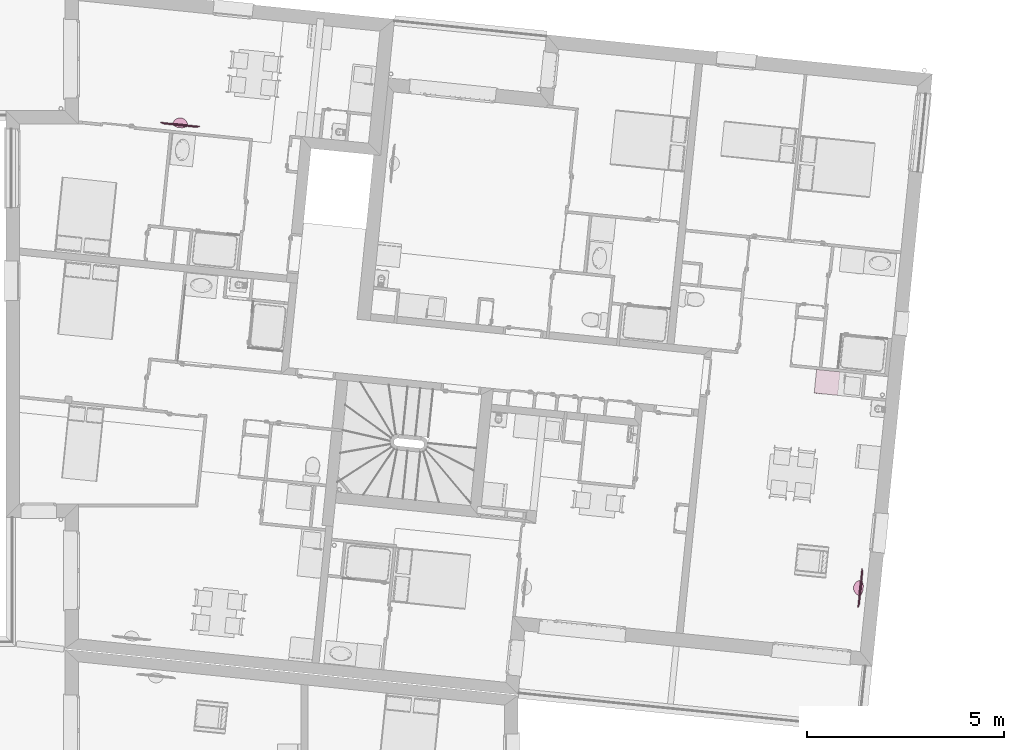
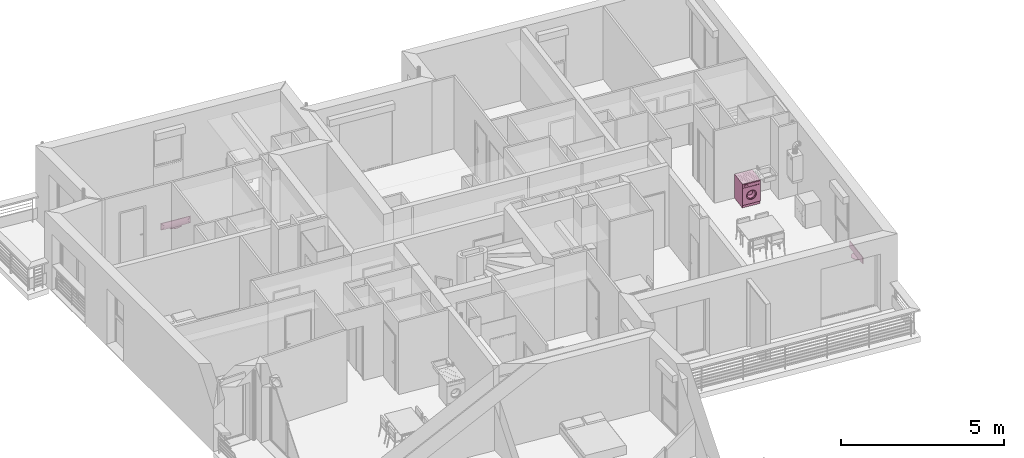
# One storey, part 130 of 164: 3 furnishings.
"""IFC2X3 building model written with IfcOpenShell, lengths in millimetres."""

import ifcopenshell
import ifcopenshell.guid

model = None  # the IFC model being written
_history = None  # IfcOwnerHistory: only IFC2X3 demands one
_inside = {}  # id of a spatial element -> (the spatial element, [elements in it])
_under = {}  # id of a project, library or spatial element -> (it, [spatial elements below it])
_declared = {}  # id of a project -> (the project, [libraries it declares])
_typed = {}  # id of a type object -> (the type object, [elements of that type])
_made_of = {}  # id of a material, layer set ... -> (it, [elements and type objects made of it])


def new_model(schema):
    """Start an empty IFC model of exactly this schema.

    Asked for "IFC4X3", IfcOpenShell would pick the latest addendum, in which some entities
    have other attributes; the version numbers below select the first issue.
    IFC2X3 requires an IfcOwnerHistory on every rooted entity: one is made here for all.
    """
    global model, _history
    if schema == "IFC4X3":
        model = ifcopenshell.file(schema_version=(4, 3, 0, 0))
    else:
        model = ifcopenshell.file(schema=schema)
    _inside.clear()
    _under.clear()
    _declared.clear()
    _typed.clear()
    _made_of.clear()
    _history = None
    if model.schema == "IFC2X3":
        org = make("IfcOrganization", Name="unknown")
        user = make(
            "IfcPersonAndOrganization",
            ThePerson=make("IfcPerson", FamilyName="unknown"),
            TheOrganization=org,
        )
        app = make(
            "IfcApplication",
            ApplicationDeveloper=org,
            Version="unknown",
            ApplicationFullName="unknown",
            ApplicationIdentifier="unknown",
        )
        _history = make(
            "IfcOwnerHistory",
            OwningUser=user,
            OwningApplication=app,
            ChangeAction="ADDED",
            CreationDate=0,
        )
    return model


def make(cls, **values):
    """One entity of the class cls with the attributes given. An attribute that is None is left unset."""
    return model.create_entity(
        cls, **{name: value for name, value in values.items() if value is not None}
    )


def entity(cls, *values):
    """Any entity or typed value of the class cls, its attributes in the order of the schema. None: left unset."""
    e = model.create_entity(cls)
    for i, value in enumerate(values):
        if value is not None:
            e[i] = value
    return e


def rooted(cls, **values):
    """An entity with a GlobalId (a new one), such as an element, a storey or a relation."""
    return make(cls, GlobalId=ifcopenshell.guid.new(), OwnerHistory=_history, **values)


def si_unit(unit_type, name, prefix=None):
    """IfcSIUnit, for example si_unit("LENGTHUNIT", "METRE", prefix="MILLI")."""
    return make("IfcSIUnit", UnitType=unit_type, Prefix=prefix, Name=name)


def converted_unit(unit_type, name, factor, base, dimensions=None, offset=None):
    """IfcConversionBasedUnit, such as the inch: factor (a typed value) times the base unit."""
    return make(
        "IfcConversionBasedUnit"
        if offset is None
        else "IfcConversionBasedUnitWithOffset",
        ConversionOffset=offset,
        Dimensions=None
        if dimensions is None
        else entity("IfcDimensionalExponents", *dimensions),
        UnitType=unit_type,
        Name=name,
        ConversionFactor=make(
            "IfcMeasureWithUnit", ValueComponent=factor, UnitComponent=base
        ),
    )


def derived_unit(unit_type, elements):
    """IfcDerivedUnit: a product of units, each with its exponent."""
    return make(
        "IfcDerivedUnit",
        Elements=[
            make("IfcDerivedUnitElement", Unit=unit, Exponent=power)
            for unit, power in elements
        ],
        UnitType=unit_type,
    )


def money_unit(currency):
    """IfcMonetaryUnit."""
    return make("IfcMonetaryUnit", Currency=currency)


def assignment(units):
    """IfcUnitAssignment: the units of a project."""
    return None if units is None else make("IfcUnitAssignment", Units=units)


def point(xyz):
    """IfcCartesianPoint."""
    return None if xyz is None else make("IfcCartesianPoint", Coordinates=xyz)


def direction(xyz):
    """IfcDirection."""
    return None if xyz is None else make("IfcDirection", DirectionRatios=xyz)


def frame(location, z_axis=None, x_axis=None):
    """IfcAxis2Placement3D, a coordinate frame: its origin and axes. An axis left out is left unset."""
    return make(
        "IfcAxis2Placement3D",
        Location=point(location),
        Axis=direction(z_axis),
        RefDirection=direction(x_axis),
    )


def origin_with_axes():
    """The frame at (0, 0, 0) with the z axis (0, 0, 1) and the x axis (1, 0, 0) written out."""
    return frame((0.0, 0.0, 0.0), z_axis=(0.0, 0.0, 1.0), x_axis=(1.0, 0.0, 0.0))


def place(relative_to, where):
    """IfcLocalPlacement: puts the frame where relative to a parent placement (None: the world)."""
    return make(
        "IfcLocalPlacement", PlacementRelTo=relative_to, RelativePlacement=where
    )


def context(
    kind, dimensions, precision=None, world=None, true_north=None, identifier=None
):
    """IfcGeometricRepresentationContext, for example the 3D "Model" context."""
    return make(
        "IfcGeometricRepresentationContext",
        ContextIdentifier=identifier,
        ContextType=kind,
        CoordinateSpaceDimension=dimensions,
        Precision=precision,
        WorldCoordinateSystem=world,
        TrueNorth=true_north,
    )


def subcontext(parent, identifier, kind, view, scale=None):
    """IfcGeometricRepresentationSubContext, for example "Body" below "Model"."""
    return make(
        "IfcGeometricRepresentationSubContext",
        ContextIdentifier=identifier,
        ContextType=kind,
        ParentContext=parent,
        TargetScale=scale,
        TargetView=view,
    )


def project(units=None, contexts=None):
    """IfcProject with its units and contexts."""
    return rooted(
        "IfcProject",
        Name="project",
        RepresentationContexts=contexts,
        UnitsInContext=assignment(units),
    )


def spatial(cls, under=None, at=None, **own):
    """A site, building, storey or space (cls), placed at a placement, below another one or the project."""
    s = rooted(cls, ObjectPlacement=at, **own)
    if under is not None:
        _under.setdefault(under.id(), (under, []))[1].append(s)
    return s


def faces_of(points, faces, orient=None, outer=None):
    """IfcFace entities. A face is a list of loops; a loop is a list of indices into points, from 0.

    orient and outer hold one flag for each loop. By default every Orientation is true, the
    first loop of a face is its IfcFaceOuterBound and the others are IfcFaceBound.
    """
    made = []
    for i, loops in enumerate(faces):
        bounds = []
        for j, loop in enumerate(loops):
            is_outer = j == 0 if outer is None else outer[i][j]
            bounds.append(
                make(
                    "IfcFaceOuterBound" if is_outer else "IfcFaceBound",
                    Bound=make("IfcPolyLoop", Polygon=[points[k] for k in loop]),
                    Orientation=True if orient is None else orient[i][j],
                )
            )
        made.append(make("IfcFace", Bounds=bounds))
    return made


def open_shell(faces, orient=None, outer=None):
    """The faces of one IfcOpenShell. surface_model builds it on its shared points."""
    return ("IfcOpenShell", faces, orient, outer)


def faceted_brep(points, faces, orient=None, outer=None, voids=None):
    """IfcFacetedBrep: a solid bounded by flat faces; with voids (closed shells), ...WithVoids."""
    shared = [point(p) for p in points]
    hull = make("IfcClosedShell", CfsFaces=faces_of(shared, faces, orient, outer))
    if voids is None:
        return make("IfcFacetedBrep", Outer=hull)
    return make(
        "IfcFacetedBrepWithVoids",
        Outer=hull,
        Voids=[
            make(cls, CfsFaces=faces_of(shared, fs, o, b)) for cls, fs, o, b in voids
        ],
    )


def surface_model(cls, points, shells):
    """IfcFaceBasedSurfaceModel or IfcShellBasedSurfaceModel (cls): surfaces that need not close."""
    shared = [point(p) for p in points]
    made = [make(c, CfsFaces=faces_of(shared, fs, o, b)) for c, fs, o, b in shells]
    if cls == "IfcFaceBasedSurfaceModel":
        return make(cls, FbsmFaces=made)
    return make(cls, SbsmBoundary=made)


def shape(context_of_items, identifier, shape_type, items):
    """IfcShapeRepresentation: the items that make up one representation, for example the "Body"."""
    return make(
        "IfcShapeRepresentation",
        ContextOfItems=context_of_items,
        RepresentationIdentifier=identifier,
        RepresentationType=shape_type,
        Items=items,
    )


def source(mapping_origin, context_of_items, identifier, shape_type, items):
    """IfcRepresentationMap: a shape defined once, which mapped items show again and again."""
    return make(
        "IfcRepresentationMap",
        MappingOrigin=mapping_origin,
        MappedRepresentation=shape(context_of_items, identifier, shape_type, items),
    )


def transform(
    local_origin,
    x_axis=None,
    y_axis=None,
    z_axis=None,
    scale=None,
    scale2=None,
    scale3=None,
    uniform=True,
):
    """IfcCartesianTransformationOperator3D, or its non-uniform kind. x_axis, y_axis, z_axis: its Axis1, 2, 3."""
    if uniform:
        return make(
            "IfcCartesianTransformationOperator3D",
            Axis1=direction(x_axis),
            Axis2=direction(y_axis),
            LocalOrigin=point(local_origin),
            Scale=scale,
            Axis3=direction(z_axis),
        )
    return make(
        "IfcCartesianTransformationOperator3DnonUniform",
        Axis1=direction(x_axis),
        Axis2=direction(y_axis),
        LocalOrigin=point(local_origin),
        Scale=scale,
        Axis3=direction(z_axis),
        Scale2=scale2,
        Scale3=scale3,
    )


def mapped(mapping_source, mapping_target):
    """IfcMappedItem: shows the shape of a source again, moved by a transform."""
    return make(
        "IfcMappedItem", MappingSource=mapping_source, MappingTarget=mapping_target
    )


def made_of(thing, what):
    """Note that an element or type object is made of a material, layer set ...; save() writes the relation."""
    if what is not None:
        _made_of.setdefault(what.id(), (what, []))[1].append(thing)
    return thing


def type_object(cls, material=None, **own):
    """A type object (cls), such as IfcWallType, which elements share."""
    return made_of(rooted(cls, **own), material)


def element(
    cls,
    number,
    at=None,
    inside=None,
    cuts=None,
    type_object=None,
    material=None,
    context=None,
    identifier="Body",
    shape_type=None,
    held_by="IfcProductDefinitionShape",
    body=None,
    shapes=None,
    **own,
):
    """One element of the class cls, such as IfcWall. Its Tag is "e" and its number.

    at: its placement. inside: the storey or other place that contains it. cuts: it is an
    opening in that element (IfcRelVoidsElement). A single representation is given by context,
    identifier, shape_type and body (its items); several are given by shapes. held_by: the class
    of the entity that holds the representations. save() writes the other relations.
    """
    e = rooted(cls, Tag="e%d" % number, ObjectPlacement=at, **own)
    if body is not None:
        shapes = [shape(context, identifier, shape_type, body)]
    if shapes is not None:
        e.Representation = make(held_by, Representations=shapes)
    if inside is not None:
        _inside.setdefault(inside.id(), (inside, []))[1].append(e)
    if cuts is not None:
        rooted(
            "IfcRelVoidsElement", RelatingBuildingElement=cuts, RelatedOpeningElement=e
        )
    if type_object is not None:
        _typed.setdefault(type_object.id(), (type_object, []))[1].append(e)
    return made_of(e, material)


def aggregate(whole, parts):
    """IfcRelAggregates: a whole, such as a stair, and the parts it consists of."""
    return rooted("IfcRelAggregates", RelatingObject=whole, RelatedObjects=parts)


def save(model, path):
    """Write the relations noted so far, then the file.

    IfcRelAggregates (storeys below a building ...), IfcRelContainedInSpatialStructure (elements
    in a storey), IfcRelDefinesByType, IfcRelAssociatesMaterial and IfcRelDeclares: one each for
    every whole, place, type object, material and project.
    """
    for whole, parts in _under.values():
        aggregate(whole, parts)
    for where, things in _inside.values():
        rooted(
            "IfcRelContainedInSpatialStructure",
            RelatedElements=things,
            RelatingStructure=where,
        )
    for kind, things in _typed.values():
        rooted("IfcRelDefinesByType", RelatedObjects=things, RelatingType=kind)
    for what, things in _made_of.values():
        rooted("IfcRelAssociatesMaterial", RelatedObjects=things, RelatingMaterial=what)
    for by, libraries in _declared.values():
        rooted("IfcRelDeclares", RelatingContext=by, RelatedDefinitions=libraries)
    model.write(path)


model = new_model("IFC2X3")

# Units and contexts
model_context = context("Model", 3, precision=0.01, world=origin_with_axes(), true_north=direction((0.0, 1.0)))
body_context = subcontext(model_context, "Body", "Model", "MODEL_VIEW")
ifc_project = project(units=[si_unit("LENGTHUNIT", "METRE", prefix="MILLI"), si_unit("AREAUNIT", "SQUARE_METRE"), si_unit("VOLUMEUNIT", "CUBIC_METRE"), converted_unit("PLANEANGLEUNIT", "DEGREE", entity("IfcPlaneAngleMeasure", 0.0174532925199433), si_unit("PLANEANGLEUNIT", "RADIAN"), dimensions=[0, 0, 0, 0, 0, 0, 0]), money_unit("USD"), converted_unit("TIMEUNIT", "Year", entity("IfcTimeMeasure", 31557600.0), si_unit("TIMEUNIT", "SECOND"), dimensions=[0, 0, 1, 0, 0, 0, 0]), si_unit("MASSUNIT", "GRAM", prefix="KILO"), si_unit("THERMODYNAMICTEMPERATUREUNIT", "DEGREE_CELSIUS"), si_unit("LUMINOUSINTENSITYUNIT", "LUMEN"), si_unit("ENERGYUNIT", "JOULE", prefix="MEGA"), derived_unit("THERMALCONDUCTANCEUNIT", [(si_unit("POWERUNIT", "WATT"), 1), (si_unit("LENGTHUNIT", "METRE"), -1), (si_unit("THERMODYNAMICTEMPERATUREUNIT", "KELVIN"), -1)]), derived_unit("SPECIFICHEATCAPACITYUNIT", [(si_unit("ENERGYUNIT", "JOULE"), 1), (si_unit("MASSUNIT", "GRAM", prefix="KILO"), -1), (si_unit("THERMODYNAMICTEMPERATUREUNIT", "KELVIN"), -1)]), derived_unit("MASSDENSITYUNIT", [(si_unit("MASSUNIT", "GRAM", prefix="KILO"), 1), (si_unit("VOLUMEUNIT", "CUBIC_METRE"), -1)])], contexts=[model_context])

# Site, building, storey
site_placement = place(None, origin_with_axes())
site = spatial("IfcSite", under=ifc_project, at=site_placement, Name="Site", CompositionType="ELEMENT")
building_placement = place(site_placement, origin_with_axes())
building = spatial("IfcBuilding", under=site, at=building_placement, Name="Bâtiment", CompositionType="ELEMENT")
storey_placement = place(building_placement, frame((0.0, 0.0, 5750.0), z_axis=(0.0, 0.0, 1.0), x_axis=(1.0, 0.0, 0.0)))
storey = spatial("IfcBuildingStorey", under=building, at=storey_placement, Name="Etage1", CompositionType="ELEMENT", Elevation=5750.0)

# Furnishings
furnishing_element_type_1 = type_object("IfcFurnishingElementType", Name="Ecran TV plasma")
shared_shape_1 = source(origin_with_axes(), body_context, "Body", "Brep", [
    faceted_brep([(-300.0, 45.45454545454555, 0.0), (-300.0, 45.45454545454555, 12.72727272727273), (-311.9952377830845, -22.76722074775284, 12.72727272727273), (-311.9952377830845, -22.76722074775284, 0.0), (-300.362869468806, 45.66379498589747, 0.0), (-300.362869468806, 45.66379498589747, 12.72727272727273), (-430.8157560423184, 93.01588086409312, 12.72727272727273), (-569.5967719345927, 92.94321528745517, 12.72727272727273), (-700.0000000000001, 45.45454545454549, 12.72727272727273), (-699.9923846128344, 43.70923835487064, 12.72727272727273), (-687.402263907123, -24.40525330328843, 12.72727272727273), (-652.3327960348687, -84.13989598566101, 12.72727272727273), (-598.9906470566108, -128.3293772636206, 12.72727272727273), (-533.7743345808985, -151.6730637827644, 12.72727272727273), (-464.5067103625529, -151.3708248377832, 12.72727272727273), (-399.4965906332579, -127.4589147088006, 12.72727272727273), (-346.5420938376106, -82.80562387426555, 12.72727272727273), (-346.5420938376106, -82.80562387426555, 0.0), (-399.4965906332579, -127.4589147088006, 0.0), (-464.5067103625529, -151.3708248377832, 0.0), (-533.7743345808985, -151.6730637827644, 0.0), (-598.9906470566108, -128.3293772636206, 0.0), (-652.3327960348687, -84.13989598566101, 0.0), (-687.402263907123, -24.40525330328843, 0.0), (-699.9923846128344, 43.70923835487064, 0.0), (-700.0000000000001, 45.45454545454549, 0.0), (-569.5967719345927, 92.94321528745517, 0.0), (-430.8157560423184, 93.01588086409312, 0.0)], [[[0, 1, 2, 3]], [[4, 5, 1, 0]], [[1, 5, 6, 7, 8, 9, 10, 11, 12, 13, 14, 15, 16, 2]], [[3, 2, 16, 17]], [[0, 3, 17, 18, 19, 20, 21, 22, 23, 24, 25, 26, 27, 4]], [[27, 6, 5, 4]], [[26, 7, 6, 27]], [[25, 8, 7, 26]], [[24, 9, 8, 25]], [[23, 10, 9, 24]], [[22, 11, 10, 23]], [[21, 12, 11, 22]], [[20, 13, 12, 21]], [[19, 14, 13, 20]], [[18, 15, 14, 19]], [[17, 16, 15, 18]]]),
    faceted_brep([(-666.6666666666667, 2.500000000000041, 12.72727272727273), (-666.6666666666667, 2.500000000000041, 25.45454545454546), (-666.6666666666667, 22.50000000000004, 25.45454545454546), (-666.6666666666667, 22.50000000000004, 12.72727272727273), (-333.3333333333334, 2.500000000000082, 12.72727272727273), (-333.3333333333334, 2.500000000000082, 25.45454545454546), (-333.3333333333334, 22.50000000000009, 25.45454545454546), (-333.3333333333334, 22.50000000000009, 12.72727272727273)], [[[0, 1, 2, 3]], [[4, 5, 1, 0]], [[1, 5, 6, 2]], [[3, 2, 6, 7]], [[0, 3, 7, 4]], [[7, 6, 5, 4]]]),
    faceted_brep([(-62.5, -0.2539999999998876, 65.45454545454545), (-62.5, 0.0, 65.45454545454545), (-62.5, 0.0, 254.5454545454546), (-62.5, -0.2539999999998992, 254.5454545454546), (-937.5, -0.2539999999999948, 65.45454545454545), (-937.5, 0.0, 65.45454545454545), (-937.5, 0.0, 254.5454545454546), (-937.5, -0.2540000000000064, 254.5454545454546)], [[[0, 1, 2, 3]], [[4, 5, 1, 0]], [[1, 5, 6, 2]], [[3, 2, 6, 7]], [[0, 3, 7, 4]], [[7, 6, 5, 4]]]),
    faceted_brep([(-937.5, 0.0, 25.45454545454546), (-62.5, 0.0, 25.45454545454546), (0.0, 0.0, 31.81818181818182), (0.0, 0.0, 280.0), (-1000.0, 0.0, 280.0), (-1000.0, 0.0, 31.81818181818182), (-937.5000003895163, 25.00000000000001, 25.4545450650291), (-62.50000038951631, 25.00000000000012, 25.4545450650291), (-3.895163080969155e-07, 25.00000000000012, 31.81818187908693), (-3.895163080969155e-07, 25.00000000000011, 279.9999999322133), (-1000.000000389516, 24.99999999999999, 279.9999999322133), (-1000.000000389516, 25.0, 31.81818187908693), (-934.156616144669, 42.64268163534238, 91.29792930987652), (-906.6987288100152, 50.00000037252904, 118.7558166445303), (-93.30127196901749, 50.00000037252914, 118.7558166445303), (-65.84338463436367, 42.64268163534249, 91.29792930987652), (-93.30127196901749, 50.00000037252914, 186.6987283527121), (-906.6987288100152, 50.00000037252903, 186.6987283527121)], [[[0, 1, 2, 3, 4, 5]], [[0, 6, 7, 1]], [[1, 7, 8, 2]], [[2, 8, 9, 3]], [[3, 9, 10, 4]], [[4, 10, 11, 5]], [[5, 11, 6, 0]], [[6, 12, 13, 14, 15, 7]], [[7, 15, 8]], [[8, 15, 14, 16, 9]], [[9, 16, 17, 10]], [[10, 17, 13, 12, 11]], [[11, 12, 6]], [[17, 16, 14, 13]]]),
    faceted_brep([(-500.0, -0.7937499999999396, 39.45454545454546), (-500.0, 0.0, 39.45454545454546), (-490.0, 0.0, 46.45454545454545), (-490.0, -0.7937499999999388, 46.45454545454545), (-510.0, -0.7937499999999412, 46.45454545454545), (-510.0, 0.0, 46.45454545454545), (-600.0, 0.0, 52.18181818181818), (-400.0, 0.0, 52.18181818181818), (-400.0, -0.7937499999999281, 52.18181818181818), (-600.0, -0.7937499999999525, 52.18181818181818)], [[[0, 1, 2, 3]], [[4, 5, 1, 0]], [[1, 5, 6, 7, 2]], [[3, 2, 7, 8]], [[0, 3, 8, 9, 4]], [[9, 6, 5, 4]], [[8, 7, 6, 9]]]),
    faceted_brep([(-866.6666666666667, 10.0, 280.0), (-866.6666666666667, 10.0, 281.5875), (-933.3333333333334, 9.999999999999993, 281.5875), (-933.3333333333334, 9.999999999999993, 280.0), (-866.6666666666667, 16.25, 280.0), (-866.6666666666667, 16.25, 281.5875), (-933.3333333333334, 16.24999999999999, 281.5875), (-933.3333333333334, 16.24999999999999, 280.0)], [[[0, 1, 2, 3]], [[0, 4, 5, 1]], [[1, 5, 6, 2]], [[2, 6, 7, 3]], [[3, 7, 4, 0]], [[7, 6, 5, 4]]]),
    faceted_brep([(-795.2380952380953, 10.00000000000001, 280.0), (-795.2380952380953, 10.00000000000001, 281.5875), (-861.9047619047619, 10.0, 281.5875), (-861.9047619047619, 10.0, 280.0), (-795.2380952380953, 16.25000000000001, 280.0), (-795.2380952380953, 16.25000000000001, 281.5875), (-861.9047619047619, 16.25, 281.5875), (-861.9047619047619, 16.25, 280.0)], [[[0, 1, 2, 3]], [[0, 4, 5, 1]], [[1, 5, 6, 2]], [[2, 6, 7, 3]], [[3, 7, 4, 0]], [[7, 6, 5, 4]]]),
    faceted_brep([(-757.1428571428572, 10.00000000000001, 280.0), (-757.1428571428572, 10.00000000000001, 281.5875), (-790.4761904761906, 10.00000000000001, 281.5875), (-790.4761904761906, 10.00000000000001, 280.0), (-757.1428571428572, 16.25000000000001, 280.0), (-757.1428571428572, 16.25000000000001, 281.5875), (-790.4761904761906, 16.25000000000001, 281.5875), (-790.4761904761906, 16.25000000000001, 280.0)], [[[0, 1, 2, 3]], [[0, 4, 5, 1]], [[1, 5, 6, 2]], [[2, 6, 7, 3]], [[3, 7, 4, 0]], [[7, 6, 5, 4]]]),
])
for number, where, z_axis, x_axis, name in (
    (1, (2220568.504799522, -607456.9934774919, 800.0000000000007), (0.0, 0.0, 1.0), (-0.9948188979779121, 0.1016629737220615, 0.0), "Obj.-034"),
    (2, (2238280.401627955, -619796.48229524, 800.0000000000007), (0.0, 0.0, 1.0), (-0.1016983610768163, -0.9948152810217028, 0.0), "Obj.-034"),
):
    element("IfcFurnishingElement", number, at=place(storey_placement, frame(where, z_axis=z_axis, x_axis=x_axis)), inside=storey, type_object=furnishing_element_type_1, Name=name, context=body_context, shape_type="MappedRepresentation", body=[
        mapped(shared_shape_1, transform((0.0, 0.0, 0.0))),
    ])
furnishing_element_type_2 = type_object("IfcFurnishingElementType", Name="Machine à laver")
shared_shape_2 = source(origin_with_axes(), body_context, "Body", "SurfaceModel", [
    faceted_brep([(0.0, 20.0, 100.0), (600.0, 20.0, 100.0), (600.0, 0.0, 100.0), (0.0, 0.0, 100.0), (0.0, 20.00000000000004, 740.0), (600.0, 20.00000000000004, 740.0), (471.4285714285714, 20.00000000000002, 420.0000000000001), (465.5872845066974, 20.00000000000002, 464.3689791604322), (448.4614977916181, 20.00000000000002, 505.7142857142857), (421.2183053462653, 20.00000000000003, 541.2183053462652), (385.7142857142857, 20.00000000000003, 568.4614977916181), (344.3689791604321, 20.00000000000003, 585.5872845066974), (300.0000000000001, 20.00000000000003, 591.4285714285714), (255.6310208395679, 20.00000000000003, 585.5872845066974), (214.2857142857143, 20.00000000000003, 568.4614977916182), (178.7816946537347, 20.00000000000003, 541.2183053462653), (151.5385022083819, 20.00000000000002, 505.7142857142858), (134.4127154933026, 20.00000000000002, 464.3689791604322), (128.5714285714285, 20.00000000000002, 420.0000000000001), (134.4127154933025, 20.00000000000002, 375.6310208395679), (151.5385022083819, 20.00000000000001, 334.2857142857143), (178.7816946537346, 20.00000000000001, 298.7816946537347), (214.2857142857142, 20.00000000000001, 271.5385022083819), (255.6310208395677, 20.00000000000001, 254.4127154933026), (299.9999999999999, 20.00000000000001, 248.5714285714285), (344.368979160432, 20.00000000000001, 254.4127154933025), (385.7142857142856, 20.00000000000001, 271.5385022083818), (421.2183053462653, 20.00000000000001, 298.7816946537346), (448.4614977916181, 20.00000000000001, 334.2857142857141), (465.5872845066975, 20.00000000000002, 375.6310208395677), (600.0, 0.0, 740.0), (0.0, 0.0, 740.0), (471.4285714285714, 0.0, 420.0000000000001), (465.5872845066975, 0.0, 375.6310208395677), (448.4614977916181, 0.0, 334.2857142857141), (421.2183053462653, 0.0, 298.7816946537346), (385.7142857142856, 0.0, 271.5385022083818), (344.368979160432, 0.0, 254.4127154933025), (299.9999999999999, 0.0, 248.5714285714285), (255.6310208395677, 0.0, 254.4127154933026), (214.2857142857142, 0.0, 271.5385022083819), (178.7816946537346, 0.0, 298.7816946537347), (151.5385022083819, 0.0, 334.2857142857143), (134.4127154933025, 0.0, 375.6310208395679), (128.5714285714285, 0.0, 420.0000000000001), (134.4127154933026, 0.0, 464.3689791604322), (151.5385022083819, 0.0, 505.7142857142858), (178.7816946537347, 0.0, 541.2183053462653), (214.2857142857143, 0.0, 568.4614977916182), (255.6310208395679, 0.0, 585.5872845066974), (300.0000000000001, 0.0, 591.4285714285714), (344.3689791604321, 0.0, 585.5872845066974), (385.7142857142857, 0.0, 568.4614977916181), (421.2183053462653, 0.0, 541.2183053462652), (448.4614977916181, 0.0, 505.7142857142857), (465.5872845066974, 0.0, 464.3689791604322)], [[[0, 1, 2, 3]], [[0, 4, 5, 1], [6, 7, 8, 9, 10, 11, 12, 13, 14, 15, 16, 17, 18, 19, 20, 21, 22, 23, 24, 25, 26, 27, 28, 29]], [[1, 5, 30, 2]], [[3, 2, 30, 31], [32, 33, 34, 35, 36, 37, 38, 39, 40, 41, 42, 43, 44, 45, 46, 47, 48, 49, 50, 51, 52, 53, 54, 55]], [[4, 0, 3, 31]], [[5, 4, 31, 30]], [[7, 6, 32, 55]], [[8, 7, 55, 54]], [[9, 8, 54, 53]], [[10, 9, 53, 52]], [[11, 10, 52, 51]], [[12, 11, 51, 50]], [[13, 12, 50, 49]], [[14, 13, 49, 48]], [[15, 14, 48, 47]], [[16, 15, 47, 46]], [[17, 16, 46, 45]], [[18, 17, 45, 44]], [[19, 18, 44, 43]], [[20, 19, 43, 42]], [[21, 20, 42, 41]], [[22, 21, 41, 40]], [[23, 22, 40, 39]], [[24, 23, 39, 38]], [[25, 24, 38, 37]], [[26, 25, 37, 36]], [[27, 26, 36, 35]], [[28, 27, 35, 34]], [[29, 28, 34, 33]], [[6, 29, 33, 32]]]),
    faceted_brep([(471.4285714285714, 40.00000000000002, 420.0000000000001), (465.5872845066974, 40.00000000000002, 464.3689791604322), (465.5872845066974, 20.00000000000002, 464.3689791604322), (471.4285714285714, 20.00000000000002, 420.0000000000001), (465.5872845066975, 40.00000000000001, 375.6310208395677), (448.4614977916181, 40.00000000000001, 334.2857142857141), (421.2183053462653, 40.00000000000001, 298.7816946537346), (385.7142857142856, 40.00000000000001, 271.5385022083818), (344.368979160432, 40.00000000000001, 254.4127154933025), (299.9999999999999, 40.00000000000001, 248.5714285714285), (255.6310208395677, 40.00000000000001, 254.4127154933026), (214.2857142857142, 40.00000000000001, 271.5385022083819), (178.7816946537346, 40.00000000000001, 298.7816946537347), (151.5385022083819, 40.00000000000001, 334.2857142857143), (134.4127154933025, 40.00000000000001, 375.6310208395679), (128.5714285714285, 40.00000000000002, 420.0000000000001), (134.4127154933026, 40.00000000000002, 464.3689791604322), (151.5385022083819, 40.00000000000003, 505.7142857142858), (178.7816946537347, 40.00000000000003, 541.2183053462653), (214.2857142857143, 40.00000000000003, 568.4614977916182), (255.6310208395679, 40.00000000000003, 585.5872845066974), (300.0000000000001, 40.00000000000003, 591.4285714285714), (344.3689791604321, 40.00000000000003, 585.5872845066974), (385.7142857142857, 40.00000000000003, 568.4614977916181), (421.2183053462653, 40.00000000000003, 541.2183053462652), (448.4614977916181, 40.00000000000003, 505.7142857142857), (437.1428571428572, 40.00000000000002, 420.0000000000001), (432.469827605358, 40.00000000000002, 455.4951833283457), (418.7691982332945, 40.00000000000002, 488.5714285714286), (396.9746442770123, 40.00000000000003, 516.9746442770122), (368.5714285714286, 40.00000000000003, 538.7691982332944), (335.4951833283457, 40.00000000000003, 552.469827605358), (300.0000000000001, 40.00000000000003, 557.1428571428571), (264.5048166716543, 40.00000000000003, 552.469827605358), (231.4285714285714, 40.00000000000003, 538.7691982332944), (203.0253557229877, 40.00000000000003, 516.9746442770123), (181.2308017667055, 40.00000000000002, 488.5714285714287), (167.530172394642, 40.00000000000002, 455.4951833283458), (162.8571428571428, 40.00000000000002, 420.0000000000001), (167.530172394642, 40.00000000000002, 384.5048166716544), (181.2308017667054, 40.00000000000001, 351.4285714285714), (203.0253557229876, 40.00000000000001, 323.0253557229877), (231.4285714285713, 40.00000000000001, 301.2308017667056), (264.5048166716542, 40.00000000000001, 287.530172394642), (299.9999999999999, 40.00000000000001, 282.8571428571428), (335.4951833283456, 40.00000000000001, 287.530172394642), (368.5714285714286, 40.00000000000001, 301.2308017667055), (396.9746442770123, 40.00000000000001, 323.0253557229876), (418.7691982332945, 40.00000000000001, 351.4285714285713), (432.469827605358, 40.00000000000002, 384.5048166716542), (448.4614977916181, 20.00000000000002, 505.7142857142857), (421.2183053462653, 20.00000000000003, 541.2183053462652), (385.7142857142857, 20.00000000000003, 568.4614977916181), (344.3689791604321, 20.00000000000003, 585.5872845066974), (300.0000000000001, 20.00000000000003, 591.4285714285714), (255.6310208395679, 20.00000000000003, 585.5872845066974), (214.2857142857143, 20.00000000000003, 568.4614977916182), (178.7816946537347, 20.00000000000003, 541.2183053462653), (151.5385022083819, 20.00000000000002, 505.7142857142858), (134.4127154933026, 20.00000000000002, 464.3689791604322), (128.5714285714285, 20.00000000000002, 420.0000000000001), (134.4127154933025, 20.00000000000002, 375.6310208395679), (151.5385022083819, 20.00000000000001, 334.2857142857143), (178.7816946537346, 20.00000000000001, 298.7816946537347), (214.2857142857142, 20.00000000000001, 271.5385022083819), (255.6310208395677, 20.00000000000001, 254.4127154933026), (299.9999999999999, 20.00000000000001, 248.5714285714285), (344.368979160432, 20.00000000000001, 254.4127154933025), (385.7142857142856, 20.00000000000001, 271.5385022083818), (421.2183053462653, 20.00000000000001, 298.7816946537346), (448.4614977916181, 20.00000000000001, 334.2857142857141), (465.5872845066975, 20.00000000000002, 375.6310208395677), (437.1428571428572, 20.00000000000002, 420.0000000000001), (432.469827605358, 20.00000000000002, 384.5048166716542), (418.7691982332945, 20.00000000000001, 351.4285714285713), (396.9746442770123, 20.00000000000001, 323.0253557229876), (368.5714285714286, 20.00000000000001, 301.2308017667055), (335.4951833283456, 20.00000000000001, 287.530172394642), (299.9999999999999, 20.00000000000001, 282.8571428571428), (264.5048166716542, 20.00000000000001, 287.530172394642), (231.4285714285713, 20.00000000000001, 301.2308017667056), (203.0253557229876, 20.00000000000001, 323.0253557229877), (181.2308017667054, 20.00000000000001, 351.4285714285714), (167.530172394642, 20.00000000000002, 384.5048166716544), (162.8571428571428, 20.00000000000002, 420.0000000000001), (167.530172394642, 20.00000000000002, 455.4951833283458), (181.2308017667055, 20.00000000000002, 488.5714285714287), (203.0253557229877, 20.00000000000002, 516.9746442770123), (231.4285714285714, 20.00000000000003, 538.7691982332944), (264.5048166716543, 20.00000000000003, 552.469827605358), (300.0000000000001, 20.00000000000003, 557.1428571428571), (335.4951833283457, 20.00000000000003, 552.469827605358), (368.5714285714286, 20.00000000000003, 538.7691982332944), (396.9746442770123, 20.00000000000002, 516.9746442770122), (418.7691982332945, 20.00000000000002, 488.5714285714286), (432.469827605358, 20.00000000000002, 455.4951833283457)], [[[0, 1, 2, 3]], [[0, 4, 5, 6, 7, 8, 9, 10, 11, 12, 13, 14, 15, 16, 17, 18, 19, 20, 21, 22, 23, 24, 25, 1], [26, 27, 28, 29, 30, 31, 32, 33, 34, 35, 36, 37, 38, 39, 40, 41, 42, 43, 44, 45, 46, 47, 48, 49]], [[1, 25, 50, 2]], [[3, 2, 50, 51, 52, 53, 54, 55, 56, 57, 58, 59, 60, 61, 62, 63, 64, 65, 66, 67, 68, 69, 70, 71], [72, 73, 74, 75, 76, 77, 78, 79, 80, 81, 82, 83, 84, 85, 86, 87, 88, 89, 90, 91, 92, 93, 94, 95]], [[4, 0, 3, 71]], [[5, 4, 71, 70]], [[6, 5, 70, 69]], [[7, 6, 69, 68]], [[8, 7, 68, 67]], [[9, 8, 67, 66]], [[10, 9, 66, 65]], [[11, 10, 65, 64]], [[12, 11, 64, 63]], [[13, 12, 63, 62]], [[14, 13, 62, 61]], [[15, 14, 61, 60]], [[16, 15, 60, 59]], [[17, 16, 59, 58]], [[18, 17, 58, 57]], [[19, 18, 57, 56]], [[20, 19, 56, 55]], [[21, 20, 55, 54]], [[22, 21, 54, 53]], [[23, 22, 53, 52]], [[24, 23, 52, 51]], [[25, 24, 51, 50]], [[27, 26, 72, 95]], [[28, 27, 95, 94]], [[29, 28, 94, 93]], [[30, 29, 93, 92]], [[31, 30, 92, 91]], [[32, 31, 91, 90]], [[33, 32, 90, 89]], [[34, 33, 89, 88]], [[35, 34, 88, 87]], [[36, 35, 87, 86]], [[37, 36, 86, 85]], [[38, 37, 85, 84]], [[39, 38, 84, 83]], [[40, 39, 83, 82]], [[41, 40, 82, 81]], [[42, 41, 81, 80]], [[43, 42, 80, 79]], [[44, 43, 79, 78]], [[45, 44, 78, 77]], [[46, 45, 77, 76]], [[47, 46, 76, 75]], [[48, 47, 75, 74]], [[49, 48, 74, 73]], [[26, 49, 73, 72]]]),
    surface_model("IfcShellBasedSurfaceModel", [(264.5048166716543, 39.99999999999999, 552.469827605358), (300.0, 39.99999999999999, 557.1428571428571), (300.0, 140.0, 522.8571428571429), (273.3786125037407, 140.0, 519.3523707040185), (335.4951833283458, 39.99999999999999, 552.469827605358), (326.6213874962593, 140.0, 519.3523707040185), (351.4285714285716, 140.0, 509.0768986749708), (372.7309832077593, 140.0, 492.7309832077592), (389.0768986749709, 140.0, 471.4285714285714), (399.3523707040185, 140.0, 446.6213874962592), (402.8571428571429, 140.0, 420.0), (399.3523707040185, 140.0, 393.3786125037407), (389.0768986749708, 140.0, 368.5714285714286), (372.7309832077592, 140.0, 347.2690167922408), (351.4285714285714, 140.0, 330.9231013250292), (326.6213874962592, 140.0, 320.6476292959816), (299.9999999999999, 140.0, 317.1428571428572), (273.3786125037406, 140.0, 320.6476292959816), (248.5714285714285, 140.0, 330.9231013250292), (227.2690167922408, 140.0, 347.2690167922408), (210.9231013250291, 140.0, 368.5714285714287), (200.6476292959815, 140.0, 393.3786125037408), (197.1428571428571, 140.0, 420.0000000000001), (200.6476292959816, 140.0, 446.6213874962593), (210.9231013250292, 140.0, 471.4285714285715), (227.2690167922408, 140.0, 492.7309832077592), (248.5714285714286, 140.0, 509.0768986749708), (231.4285714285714, 39.99999999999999, 538.7691982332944), (368.5714285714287, 39.99999999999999, 538.7691982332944), (396.9746442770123, 39.99999999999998, 516.9746442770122), (418.7691982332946, 39.99999999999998, 488.5714285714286), (432.469827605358, 39.99999999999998, 455.4951833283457), (437.1428571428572, 39.99999999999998, 419.9999999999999), (432.469827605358, 39.99999999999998, 384.5048166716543), (418.7691982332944, 39.99999999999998, 351.4285714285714), (396.9746442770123, 39.99999999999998, 323.0253557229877), (368.5714285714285, 39.99999999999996, 301.2308017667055), (335.4951833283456, 39.99999999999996, 287.5301723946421), (299.9999999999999, 39.99999999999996, 282.8571428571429), (264.5048166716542, 39.99999999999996, 287.5301723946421), (231.4285714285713, 39.99999999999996, 301.2308017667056), (203.0253557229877, 39.99999999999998, 323.0253557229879), (181.2308017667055, 39.99999999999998, 351.4285714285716), (167.530172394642, 39.99999999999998, 384.5048166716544), (162.8571428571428, 39.99999999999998, 420.0000000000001), (167.5301723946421, 39.99999999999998, 455.4951833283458), (181.2308017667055, 39.99999999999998, 488.5714285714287), (203.0253557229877, 39.99999999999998, 516.9746442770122)], [open_shell([[[0, 1, 2, 3]], [[1, 4, 5, 2]], [[2, 5, 6, 7, 8, 9, 10, 11, 12, 13, 14, 15, 16, 17, 18, 19, 20, 21, 22, 23, 24, 25, 26, 3]], [[27, 0, 3, 26]], [[4, 28, 6, 5]], [[28, 29, 7, 6]], [[29, 30, 8, 7]], [[30, 31, 9, 8]], [[31, 32, 10, 9]], [[32, 33, 11, 10]], [[33, 34, 12, 11]], [[34, 35, 13, 12]], [[35, 36, 14, 13]], [[36, 37, 15, 14]], [[37, 38, 16, 15]], [[38, 39, 17, 16]], [[39, 40, 18, 17]], [[40, 41, 19, 18]], [[41, 42, 20, 19]], [[42, 43, 21, 20]], [[43, 44, 22, 21]], [[44, 45, 23, 22]], [[45, 46, 24, 23]], [[46, 47, 25, 24]], [[47, 27, 26, 25]]])]),
    surface_model("IfcShellBasedSurfaceModel", [(0.0, 20.0, 100.0), (0.0, 20.00000000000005, 870.0), (0.0, 600.0, 870.0), (0.0, 600.0, 99.99999999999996)], [open_shell([[[0, 1, 2, 3]]])]),
    surface_model("IfcShellBasedSurfaceModel", [(600.0, 19.99999999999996, 100.0), (600.0, 20.00000000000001, 870.0), (600.0, 599.9999999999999, 870.0), (600.0, 599.9999999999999, 99.99999999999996)], [open_shell([[[0, 1, 2, 3]]])]),
    surface_model("IfcShellBasedSurfaceModel", [(0.0, 600.0, 100.0), (0.0, 600.0, 870.0), (600.0, 600.0, 870.0), (600.0, 600.0, 100.0)], [open_shell([[[0, 1, 2, 3]]])]),
    faceted_brep([(0.0, 20.0, 0.0), (600.0, 20.0, 0.0), (600.0, 20.0, 100.0), (0.0, 20.0, 100.0), (0.0, 600.0, 0.0), (600.0, 600.0, 0.0), (600.0, 600.0, 100.0), (0.0, 600.0, 100.0)], [[[0, 1, 2, 3]], [[0, 4, 5, 1]], [[1, 5, 6, 2]], [[3, 2, 6, 7]], [[4, 0, 3, 7]], [[5, 4, 7, 6]]]),
    faceted_brep([(0.0, 20.0, 750.0), (600.0, 20.0, 750.0), (600.0, 0.0, 750.0), (0.0, 0.0, 750.0), (0.0, 20.00000000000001, 860.0), (600.0, 20.00000000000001, 860.0), (600.0, 0.0, 860.0), (0.0, 0.0, 860.0)], [[[0, 1, 2, 3]], [[0, 4, 5, 1]], [[1, 5, 6, 2]], [[3, 2, 6, 7]], [[4, 0, 3, 7]], [[5, 4, 7, 6]]]),
    surface_model("IfcShellBasedSurfaceModel", [(0.0, 20.0, 740.0), (0.0, 20.00000000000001, 870.0), (600.0, 20.00000000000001, 870.0), (600.0, 20.0, 740.0)], [open_shell([[[0, 1, 2, 3]]])]),
    faceted_brep([(0.0, 0.0, 870.0), (600.0, 0.0, 870.0), (600.0, 0.0, 900.0), (0.0, 0.0, 900.0), (0.0, 600.0, 870.0), (600.0, 600.0, 870.0), (600.0, 600.0, 900.0), (0.0, 600.0, 900.0)], [[[0, 1, 2, 3]], [[0, 4, 5, 1]], [[1, 5, 6, 2]], [[3, 2, 6, 7]], [[4, 0, 3, 7]], [[5, 4, 7, 6]]]),
    faceted_brep([(68.66025403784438, 0.0, 804.9999999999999), (64.99999999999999, 0.0, 801.3397459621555), (59.99999999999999, 0.0, 799.9999999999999), (54.99999999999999, 0.0, 801.3397459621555), (51.33974596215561, 0.0, 804.9999999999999), (49.99999999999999, 0.0, 809.9999999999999), (51.33974596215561, 0.0, 815.0), (55.0, 0.0, 818.6602540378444), (60.0, 0.0, 820.0), (65.0, 0.0, 818.6602540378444), (68.66025403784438, 0.0, 815.0), (69.99999999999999, 0.0, 809.9999999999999), (68.66025403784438, -10.0, 804.9999999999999), (64.99999999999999, -10.0, 801.3397459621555), (59.99999999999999, -10.0, 799.9999999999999), (54.99999999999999, -10.0, 801.3397459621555), (51.33974596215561, -10.0, 804.9999999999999), (49.99999999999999, -10.0, 809.9999999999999), (51.33974596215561, -10.0, 815.0), (55.0, -10.0, 818.6602540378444), (60.0, -10.0, 820.0), (65.0, -10.0, 818.6602540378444), (68.66025403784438, -10.0, 815.0), (69.99999999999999, -10.0, 809.9999999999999)], [[[0, 1, 2, 3, 4, 5, 6, 7, 8, 9, 10, 11]], [[1, 0, 12, 13]], [[2, 1, 13, 14]], [[3, 2, 14, 15]], [[4, 3, 15, 16]], [[5, 4, 16, 17]], [[6, 5, 17, 18]], [[7, 6, 18, 19]], [[8, 7, 19, 20]], [[9, 8, 20, 21]], [[10, 9, 21, 22]], [[11, 10, 22, 23]], [[0, 11, 23, 12]], [[12, 23, 22, 21, 20, 19, 18, 17, 16, 15, 14, 13]]]),
    faceted_brep([(108.6602540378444, 0.0, 804.9999999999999), (105.0, 0.0, 801.3397459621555), (99.99999999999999, 0.0, 799.9999999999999), (95.0, 0.0, 801.3397459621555), (91.33974596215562, 0.0, 804.9999999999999), (90.00000000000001, 0.0, 809.9999999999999), (91.33974596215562, 0.0, 815.0), (95.0, 0.0, 818.6602540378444), (100.0, 0.0, 820.0), (105.0, 0.0, 818.6602540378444), (108.6602540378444, 0.0, 815.0), (110.0, 0.0, 809.9999999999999), (108.6602540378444, -10.0, 804.9999999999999), (105.0, -10.0, 801.3397459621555), (99.99999999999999, -10.0, 799.9999999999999), (95.0, -10.0, 801.3397459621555), (91.33974596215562, -10.0, 804.9999999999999), (90.00000000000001, -10.0, 809.9999999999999), (91.33974596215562, -10.0, 815.0), (95.0, -10.0, 818.6602540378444), (100.0, -10.0, 820.0), (105.0, -10.0, 818.6602540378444), (108.6602540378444, -10.0, 815.0), (110.0, -10.0, 809.9999999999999)], [[[0, 1, 2, 3, 4, 5, 6, 7, 8, 9, 10, 11]], [[1, 0, 12, 13]], [[2, 1, 13, 14]], [[3, 2, 14, 15]], [[4, 3, 15, 16]], [[5, 4, 16, 17]], [[6, 5, 17, 18]], [[7, 6, 18, 19]], [[8, 7, 19, 20]], [[9, 8, 20, 21]], [[10, 9, 21, 22]], [[11, 10, 22, 23]], [[0, 11, 23, 12]], [[12, 23, 22, 21, 20, 19, 18, 17, 16, 15, 14, 13]]]),
    faceted_brep([(148.6602540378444, 0.0, 804.9999999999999), (145.0, 0.0, 801.3397459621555), (140.0, 0.0, 799.9999999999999), (135.0, 0.0, 801.3397459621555), (131.3397459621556, 0.0, 804.9999999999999), (130.0, 0.0, 809.9999999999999), (131.3397459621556, 0.0, 815.0), (135.0, 0.0, 818.6602540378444), (140.0, 0.0, 820.0), (145.0, 0.0, 818.6602540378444), (148.6602540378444, 0.0, 815.0), (150.0, 0.0, 809.9999999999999), (148.6602540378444, -10.0, 804.9999999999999), (145.0, -10.0, 801.3397459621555), (140.0, -10.0, 799.9999999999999), (135.0, -10.0, 801.3397459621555), (131.3397459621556, -10.0, 804.9999999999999), (130.0, -10.0, 809.9999999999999), (131.3397459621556, -10.0, 815.0), (135.0, -10.0, 818.6602540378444), (140.0, -10.0, 820.0), (145.0, -10.0, 818.6602540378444), (148.6602540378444, -10.0, 815.0), (150.0, -10.0, 809.9999999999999)], [[[0, 1, 2, 3, 4, 5, 6, 7, 8, 9, 10, 11]], [[1, 0, 12, 13]], [[2, 1, 13, 14]], [[3, 2, 14, 15]], [[4, 3, 15, 16]], [[5, 4, 16, 17]], [[6, 5, 17, 18]], [[7, 6, 18, 19]], [[8, 7, 19, 20]], [[9, 8, 20, 21]], [[10, 9, 21, 22]], [[11, 10, 22, 23]], [[0, 11, 23, 12]], [[12, 23, 22, 21, 20, 19, 18, 17, 16, 15, 14, 13]]]),
    faceted_brep([(188.6602540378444, 0.0, 804.9999999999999), (185.0, 0.0, 801.3397459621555), (180.0, 0.0, 799.9999999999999), (175.0, 0.0, 801.3397459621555), (171.3397459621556, 0.0, 804.9999999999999), (170.0, 0.0, 809.9999999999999), (171.3397459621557, 0.0, 815.0), (175.0, 0.0, 818.6602540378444), (180.0, 0.0, 820.0), (185.0, 0.0, 818.6602540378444), (188.6602540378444, 0.0, 815.0), (190.0, 0.0, 809.9999999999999), (188.6602540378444, -10.0, 804.9999999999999), (185.0, -10.0, 801.3397459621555), (180.0, -10.0, 799.9999999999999), (175.0, -10.0, 801.3397459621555), (171.3397459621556, -10.0, 804.9999999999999), (170.0, -10.0, 809.9999999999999), (171.3397459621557, -10.0, 815.0), (175.0, -10.0, 818.6602540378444), (180.0, -10.0, 820.0), (185.0, -10.0, 818.6602540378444), (188.6602540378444, -10.0, 815.0), (190.0, -10.0, 809.9999999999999)], [[[0, 1, 2, 3, 4, 5, 6, 7, 8, 9, 10, 11]], [[1, 0, 12, 13]], [[2, 1, 13, 14]], [[3, 2, 14, 15]], [[4, 3, 15, 16]], [[5, 4, 16, 17]], [[6, 5, 17, 18]], [[7, 6, 18, 19]], [[8, 7, 19, 20]], [[9, 8, 20, 21]], [[10, 9, 21, 22]], [[11, 10, 22, 23]], [[0, 11, 23, 12]], [[12, 23, 22, 21, 20, 19, 18, 17, 16, 15, 14, 13]]]),
])
furnishing_placement = place(storey_placement, frame((2237180.304828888, -614343.5788621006, 0.0), z_axis=(0.0, 0.0, 1.0), x_axis=(0.9949567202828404, -0.1003051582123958, 0.0)))
element("IfcFurnishingElement", 3, at=furnishing_placement, inside=storey, type_object=furnishing_element_type_2, Name="Obj.-019", context=body_context, shape_type="MappedRepresentation", body=[
    mapped(shared_shape_2, transform((0.0, 0.0, 0.0))),
])

save(model, "model.ifc")
